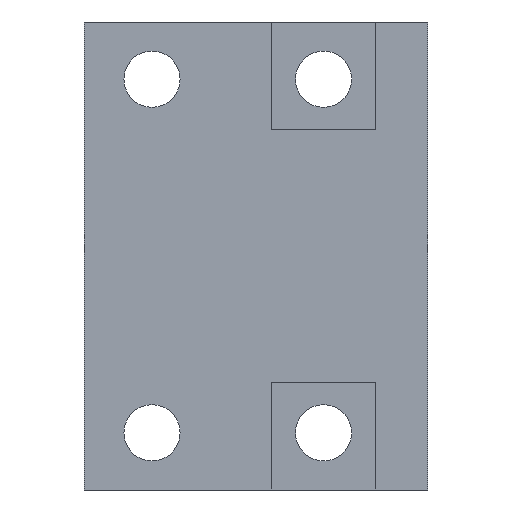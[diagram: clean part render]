
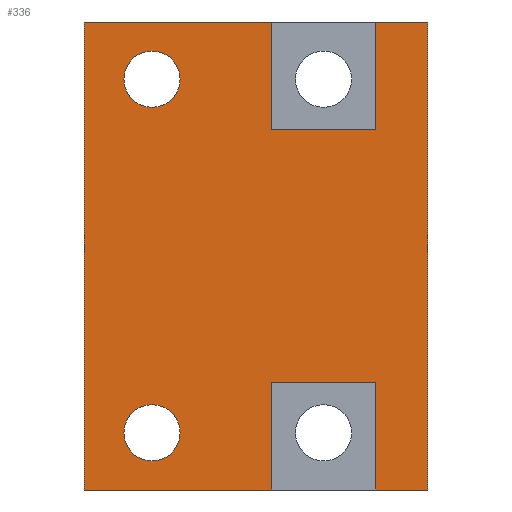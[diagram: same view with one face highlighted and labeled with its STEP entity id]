
A CAD part, front view. The second image highlights one B-rep face of the part: STEP entity #336.
In plain terms, the highlighted planar face has unit normal (0, -1, 0).
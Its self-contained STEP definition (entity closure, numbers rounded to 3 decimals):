
#1 = EDGE_CURVE ( 'NONE', #124, #160, #732, .T. ) ;
#3 = EDGE_CURVE ( 'NONE', #217, #77, #605, .T. ) ;
#4 = ORIENTED_EDGE ( 'NONE', *, *, #7, .F. ) ;
#5 = ORIENTED_EDGE ( 'NONE', *, *, #1, .F. ) ;
#6 = ORIENTED_EDGE ( 'NONE', *, *, #76, .F. ) ;
#7 = EDGE_CURVE ( 'NONE', #483, #112, #601, .T. ) ;
#8 = ORIENTED_EDGE ( 'NONE', *, *, #287, .T. ) ;
#9 = ORIENTED_EDGE ( 'NONE', *, *, #3, .T. ) ;
#10 = ORIENTED_EDGE ( 'NONE', *, *, #427, .T. ) ;
#11 = ORIENTED_EDGE ( 'NONE', *, *, #512, .F. ) ;
#12 = ORIENTED_EDGE ( 'NONE', *, *, #13, .F. ) ;
#13 = EDGE_CURVE ( 'NONE', #113, #439, #658, .T. ) ;
#14 = EDGE_LOOP ( 'NONE', ( #10, #12, #11, #4, #8, #9, #6, #5, #35, #36, #40, #42 ) ) ;
#15 = ORIENTED_EDGE ( 'NONE', *, *, #172, .T. ) ;
#16 = EDGE_CURVE ( 'NONE', #174, #173, #550, .T. ) ;
#17 = ORIENTED_EDGE ( 'NONE', *, *, #16, .T. ) ;
#18 = EDGE_LOOP ( 'NONE', ( #17, #15 ) ) ;
#19 = EDGE_CURVE ( 'NONE', #91, #90, #551, .T. ) ;
#20 = ORIENTED_EDGE ( 'NONE', *, *, #89, .T. ) ;
#35 = ORIENTED_EDGE ( 'NONE', *, *, #123, .T. ) ;
#36 = ORIENTED_EDGE ( 'NONE', *, *, #37, .T. ) ;
#37 = EDGE_CURVE ( 'NONE', #125, #38, #564, .T. ) ;
#38 = VERTEX_POINT ( 'NONE', #560 ) ;
#39 = VERTEX_POINT ( 'NONE', #559 ) ;
#40 = ORIENTED_EDGE ( 'NONE', *, *, #41, .F. ) ;
#41 = EDGE_CURVE ( 'NONE', #39, #38, #758, .T. ) ;
#42 = ORIENTED_EDGE ( 'NONE', *, *, #43, .F. ) ;
#43 = EDGE_CURVE ( 'NONE', #517, #39, #754, .T. ) ;
#76 = EDGE_CURVE ( 'NONE', #160, #77, #578, .T. ) ;
#77 = VERTEX_POINT ( 'NONE', #574 ) ;
#89 = EDGE_CURVE ( 'NONE', #90, #91, #636, .T. ) ;
#90 = VERTEX_POINT ( 'NONE', #627 ) ;
#91 = VERTEX_POINT ( 'NONE', #626 ) ;
#112 = VERTEX_POINT ( 'NONE', #540 ) ;
#113 = VERTEX_POINT ( 'NONE', #539 ) ;
#123 = EDGE_CURVE ( 'NONE', #124, #125, #853, .T. ) ;
#124 = VERTEX_POINT ( 'NONE', #855 ) ;
#125 = VERTEX_POINT ( 'NONE', #828 ) ;
#160 = VERTEX_POINT ( 'NONE', #822 ) ;
#172 = EDGE_CURVE ( 'NONE', #173, #174, #864, .T. ) ;
#173 = VERTEX_POINT ( 'NONE', #856 ) ;
#174 = VERTEX_POINT ( 'NONE', #907 ) ;
#217 = VERTEX_POINT ( 'NONE', #1046 ) ;
#287 = EDGE_CURVE ( 'NONE', #483, #217, #999, .T. ) ;
#336 = ADVANCED_FACE ( 'NONE', ( #1129, #1174, #1173 ), #1172, .F. ) ;
#427 = EDGE_CURVE ( 'NONE', #517, #439, #1100, .T. ) ;
#431 = ORIENTED_EDGE ( 'NONE', *, *, #19, .T. ) ;
#435 = EDGE_LOOP ( 'NONE', ( #431, #20 ) ) ;
#439 = VERTEX_POINT ( 'NONE', #1415 ) ;
#483 = VERTEX_POINT ( 'NONE', #1403 ) ;
#512 = EDGE_CURVE ( 'NONE', #112, #113, #1278, .T. ) ;
#517 = VERTEX_POINT ( 'NONE', #1348 ) ;
#539 = CARTESIAN_POINT ( 'NONE',  ( -10., 6.8, 24.4 ) ) ;
#540 = CARTESIAN_POINT ( 'NONE',  ( -10., 6.8, 45. ) ) ;
#544 = DIRECTION ( 'NONE',  ( 1., 0., 0. ) ) ;
#545 = VECTOR ( 'NONE', #544, 1000. ) ;
#546 = CARTESIAN_POINT ( 'NONE',  ( -46., 6.8, 45. ) ) ;
#547 = DIRECTION ( 'NONE',  ( -1., 0., 0. ) ) ;
#548 = DIRECTION ( 'NONE',  ( 0., 1., 0. ) ) ;
#549 = AXIS2_PLACEMENT_3D ( 'NONE', #654, #548, #547 ) ;
#550 = CIRCLE ( 'NONE', #549, 5.4 ) ;
#551 = CIRCLE ( 'NONE', #609, 5.4 ) ;
#559 = CARTESIAN_POINT ( 'NONE',  ( 20., 6.8, 45. ) ) ;
#560 = CARTESIAN_POINT ( 'NONE',  ( 20., 6.8, -45. ) ) ;
#561 = DIRECTION ( 'NONE',  ( 1., 0., 0. ) ) ;
#562 = VECTOR ( 'NONE', #561, 1000. ) ;
#563 = CARTESIAN_POINT ( 'NONE',  ( 10., 6.8, -45. ) ) ;
#564 = LINE ( 'NONE', #563, #562 ) ;
#574 = CARTESIAN_POINT ( 'NONE',  ( -10., 6.8, -45. ) ) ;
#575 = DIRECTION ( 'NONE',  ( 0., 0., -1. ) ) ;
#576 = VECTOR ( 'NONE', #575, 1000. ) ;
#577 = CARTESIAN_POINT ( 'NONE',  ( -10., 6.8, 45. ) ) ;
#578 = LINE ( 'NONE', #577, #576 ) ;
#601 = LINE ( 'NONE', #546, #545 ) ;
#602 = DIRECTION ( 'NONE',  ( 1., 0., 0. ) ) ;
#603 = VECTOR ( 'NONE', #602, 1000. ) ;
#604 = CARTESIAN_POINT ( 'NONE',  ( -46., 6.8, -45. ) ) ;
#605 = LINE ( 'NONE', #604, #603 ) ;
#606 = DIRECTION ( 'NONE',  ( -1., 0., 0. ) ) ;
#607 = DIRECTION ( 'NONE',  ( 0., 1., 0. ) ) ;
#608 = CARTESIAN_POINT ( 'NONE',  ( -33., 6.8, 34. ) ) ;
#609 = AXIS2_PLACEMENT_3D ( 'NONE', #608, #607, #606 ) ;
#626 = CARTESIAN_POINT ( 'NONE',  ( -33., 6.8, 39.4 ) ) ;
#627 = CARTESIAN_POINT ( 'NONE',  ( -33., 6.8, 28.6 ) ) ;
#628 = DIRECTION ( 'NONE',  ( -1., 0., 0. ) ) ;
#629 = DIRECTION ( 'NONE',  ( 0., 1., 0. ) ) ;
#630 = CARTESIAN_POINT ( 'NONE',  ( -33., 6.8, 34. ) ) ;
#631 = AXIS2_PLACEMENT_3D ( 'NONE', #630, #629, #628 ) ;
#636 = CIRCLE ( 'NONE', #631, 5.4 ) ;
#654 = CARTESIAN_POINT ( 'NONE',  ( -33., 6.8, -34. ) ) ;
#655 = DIRECTION ( 'NONE',  ( 1., 0., 0. ) ) ;
#656 = VECTOR ( 'NONE', #655, 1000. ) ;
#657 = CARTESIAN_POINT ( 'NONE',  ( -46., 6.8, 24.4 ) ) ;
#658 = LINE ( 'NONE', #657, #656 ) ;
#670 = DIRECTION ( 'NONE',  ( -1., 0., 0. ) ) ;
#730 = VECTOR ( 'NONE', #670, 1000. ) ;
#731 = CARTESIAN_POINT ( 'NONE',  ( -46., 6.8, -24.4 ) ) ;
#732 = LINE ( 'NONE', #731, #730 ) ;
#751 = DIRECTION ( 'NONE',  ( 1., 0., 0. ) ) ;
#752 = VECTOR ( 'NONE', #751, 1000. ) ;
#753 = CARTESIAN_POINT ( 'NONE',  ( 10., 6.8, 45. ) ) ;
#754 = LINE ( 'NONE', #753, #752 ) ;
#755 = DIRECTION ( 'NONE',  ( 0., 0., -1. ) ) ;
#756 = VECTOR ( 'NONE', #755, 1000. ) ;
#757 = CARTESIAN_POINT ( 'NONE',  ( 20., 6.8, 45. ) ) ;
#758 = LINE ( 'NONE', #757, #756 ) ;
#805 = DIRECTION ( 'NONE',  ( 0., 0., -1. ) ) ;
#806 = VECTOR ( 'NONE', #805, 1000. ) ;
#822 = CARTESIAN_POINT ( 'NONE',  ( -10., 6.8, -24.4 ) ) ;
#828 = CARTESIAN_POINT ( 'NONE',  ( 10., 6.8, -45. ) ) ;
#852 = CARTESIAN_POINT ( 'NONE',  ( 10., 6.8, 45. ) ) ;
#853 = LINE ( 'NONE', #852, #806 ) ;
#855 = CARTESIAN_POINT ( 'NONE',  ( 10., 6.8, -24.4 ) ) ;
#856 = CARTESIAN_POINT ( 'NONE',  ( -33., 6.8, -39.4 ) ) ;
#857 = DIRECTION ( 'NONE',  ( -1., 0., 0. ) ) ;
#858 = DIRECTION ( 'NONE',  ( 0., 1., 0. ) ) ;
#859 = CARTESIAN_POINT ( 'NONE',  ( -33., 6.8, -34. ) ) ;
#860 = AXIS2_PLACEMENT_3D ( 'NONE', #859, #858, #857 ) ;
#864 = CIRCLE ( 'NONE', #860, 5.4 ) ;
#907 = CARTESIAN_POINT ( 'NONE',  ( -33., 6.8, -28.6 ) ) ;
#911 = CARTESIAN_POINT ( 'NONE',  ( 10., 6.8, 45. ) ) ;
#983 = VECTOR ( 'NONE', #1293, 1000. ) ;
#998 = CARTESIAN_POINT ( 'NONE',  ( -46., 6.8, 45. ) ) ;
#999 = LINE ( 'NONE', #998, #1045 ) ;
#1044 = DIRECTION ( 'NONE',  ( 0., 0., -1. ) ) ;
#1045 = VECTOR ( 'NONE', #1044, 1000. ) ;
#1046 = CARTESIAN_POINT ( 'NONE',  ( -46., 6.8, -45. ) ) ;
#1100 = LINE ( 'NONE', #911, #983 ) ;
#1129 = FACE_BOUND ( 'NONE', #435, .T. ) ;
#1157 = DIRECTION ( 'NONE',  ( -1., 0., 0. ) ) ;
#1158 = DIRECTION ( 'NONE',  ( 0., 1., 0. ) ) ;
#1159 = AXIS2_PLACEMENT_3D ( 'NONE', #1171, #1158, #1157 ) ;
#1171 = CARTESIAN_POINT ( 'NONE',  ( 10., 6.8, 45. ) ) ;
#1172 = PLANE ( 'NONE',  #1159 ) ;
#1173 = FACE_OUTER_BOUND ( 'NONE', #14, .T. ) ;
#1174 = FACE_BOUND ( 'NONE', #18, .T. ) ;
#1275 = DIRECTION ( 'NONE',  ( 0., 0., -1. ) ) ;
#1276 = VECTOR ( 'NONE', #1275, 1000. ) ;
#1277 = CARTESIAN_POINT ( 'NONE',  ( -10., 6.8, 45. ) ) ;
#1278 = LINE ( 'NONE', #1277, #1276 ) ;
#1293 = DIRECTION ( 'NONE',  ( 0., 0., -1. ) ) ;
#1348 = CARTESIAN_POINT ( 'NONE',  ( 10., 6.8, 45. ) ) ;
#1403 = CARTESIAN_POINT ( 'NONE',  ( -46., 6.8, 45. ) ) ;
#1415 = CARTESIAN_POINT ( 'NONE',  ( 10., 6.8, 24.4 ) ) ;
